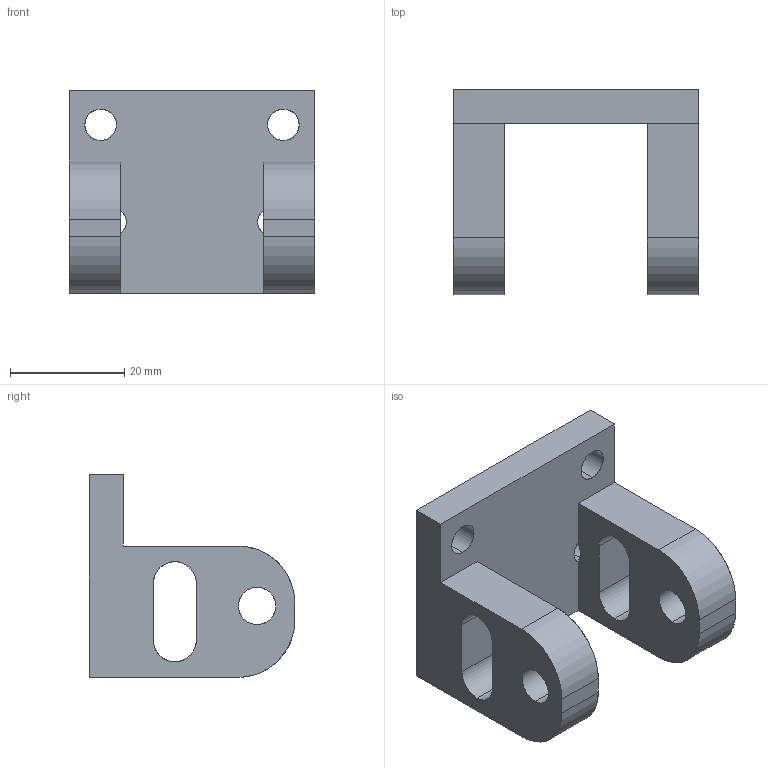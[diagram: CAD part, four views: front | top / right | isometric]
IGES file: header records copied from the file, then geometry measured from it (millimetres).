
Start section: SolidWorks IGES file using analytic representation for surfaces
Global section: file name: C:\Documents and Settings\CAD53\デスクトップ\IGES\N01911-104-0.IGS; native system: SolidWorks 2005 by SolidWorks Corporation; preprocessor: SolidWorks 2005 by SolidWorks Corporation; author: CAD53; date: 070530.083336; units: millimetre
Bounding box: 43 x 36 x 35.5 mm (x, y, z)
Surface area: 8343.2 mm2 (no closed solid volume)
Topology: 0 solids, 0 shells, 42 faces, 762 edges, 758 vertices
Faces by surface type: revolution 26, bspline 16
